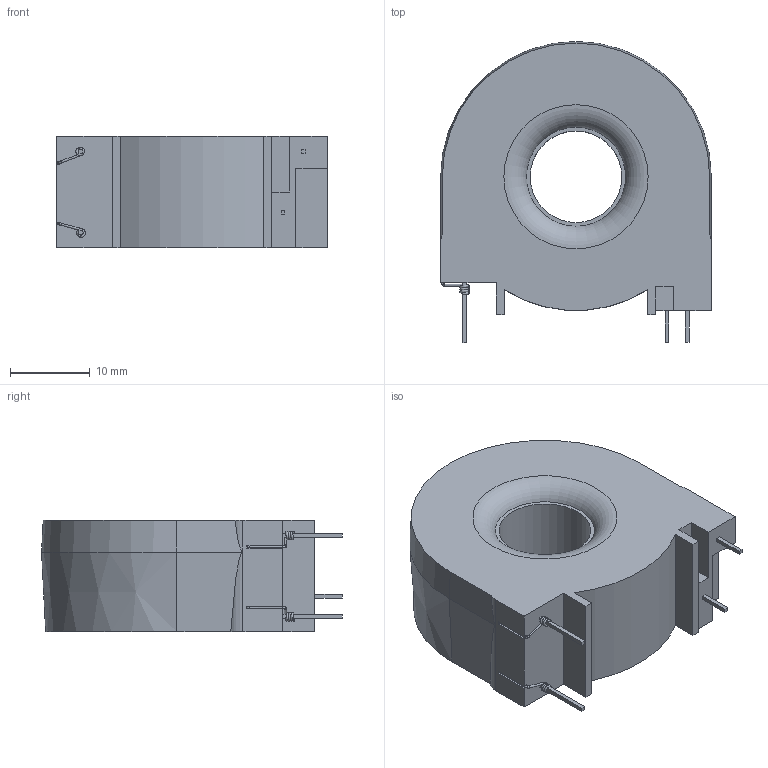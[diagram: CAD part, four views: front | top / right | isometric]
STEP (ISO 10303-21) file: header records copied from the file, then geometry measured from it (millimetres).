
FILE_DESCRIPTION(/* description */ (''),/* implementation_level */ '2;1');
FILE_NAME(/* name */ 'K:\CAD\K1\Zeichn08\080602 HotMWZ f 4626-X501; k22369\080602_09 Mouldet part.stp',/* time_stamp */ '2022-01-31T17:53:37+01:00',/* author */ ('M. Kö.'),/* organization */ (''),/* preprocessor_version */ 'ST-DEVELOPER v18.1',/* originating_system */ 'Autodesk Inventor 2022',/* authorisation */ '');
FILE_SCHEMA (('AUTOMOTIVE_DESIGN { 1 0 10303 214 3 1 1 }'));
Length unit declared in the file: inch
Products named in the file (1): 080602_09 Mouldet part
Bounding box: 34 x 37.8 x 14 mm (x, y, z)
Volume: 11811.3 mm3; surface area: 4065.4 mm2
Topology: 1 solids, 1 shells, 112 faces, 369 edges, 240 vertices
Faces by surface type: plane 74, cylinder 19, torus 10, bspline 7, cone 2
Full cylindrical faces by diameter (mm): 0.28 x5, 11.5 x1
Entity records: 6041 total; most frequent: CARTESIAN_POINT 2713, ORIENTED_EDGE 744, DIRECTION 558, EDGE_CURVE 372, VERTEX_POINT 240, LINE 192, VECTOR 192, AXIS2_PLACEMENT_3D 183
